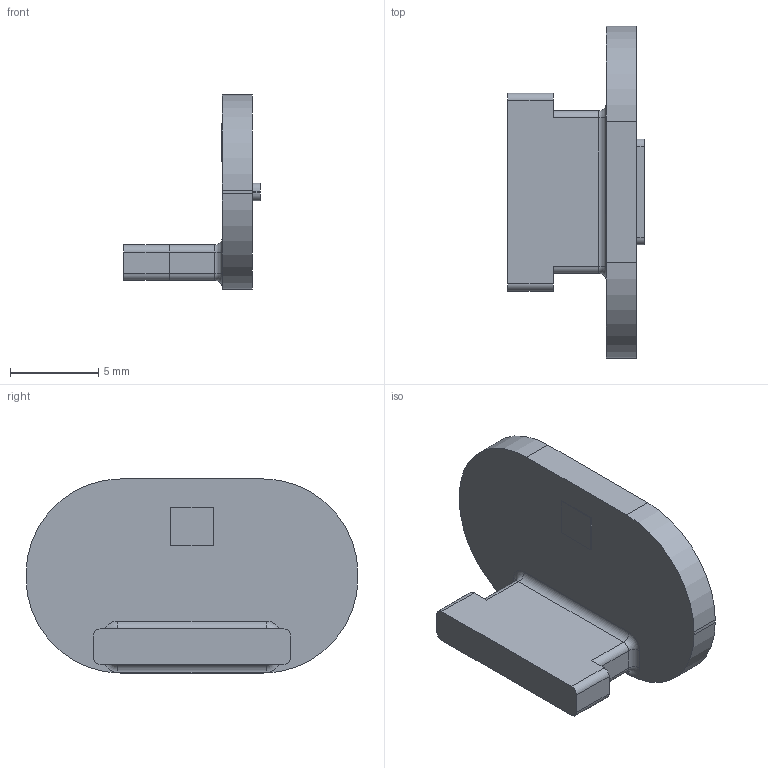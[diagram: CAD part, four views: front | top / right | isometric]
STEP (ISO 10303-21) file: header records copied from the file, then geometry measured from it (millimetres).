
FILE_DESCRIPTION(('Open CASCADE Model'),'2;1');
FILE_NAME('Open CASCADE Shape Model','2026-09-16T15:34:22',('Author'),( 'Open CASCADE'),'Open CASCADE STEP processor 7.7','Open CASCADE 7.7' ,'Unknown');
FILE_SCHEMA(('AUTOMOTIVE_DESIGN { 1 0 10303 214 1 1 1 1 }'));
Length unit declared in the file: millimetre
Products named in the file (1): SOLID
Bounding box: 7.75 x 18.8 x 11 mm (x, y, z)
Volume: 425.5 mm3; surface area: 591.4 mm2
Topology: 1 solids, 1 shells, 53 faces, 136 edges, 88 vertices
Faces by surface type: plane 27, cylinder 22, torus 4
Entity records: 3440 total; most frequent: CARTESIAN_POINT 700, DIRECTION 524, LINE 306, VECTOR 306, ORIENTED_EDGE 272, PCURVE 272, DEFINITIONAL_REPRESENTATION 272, EDGE_CURVE 136
